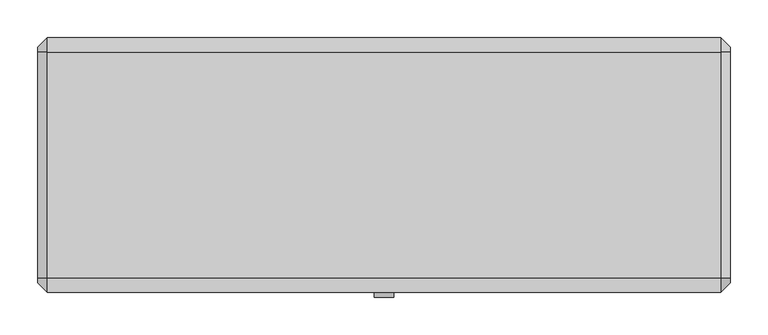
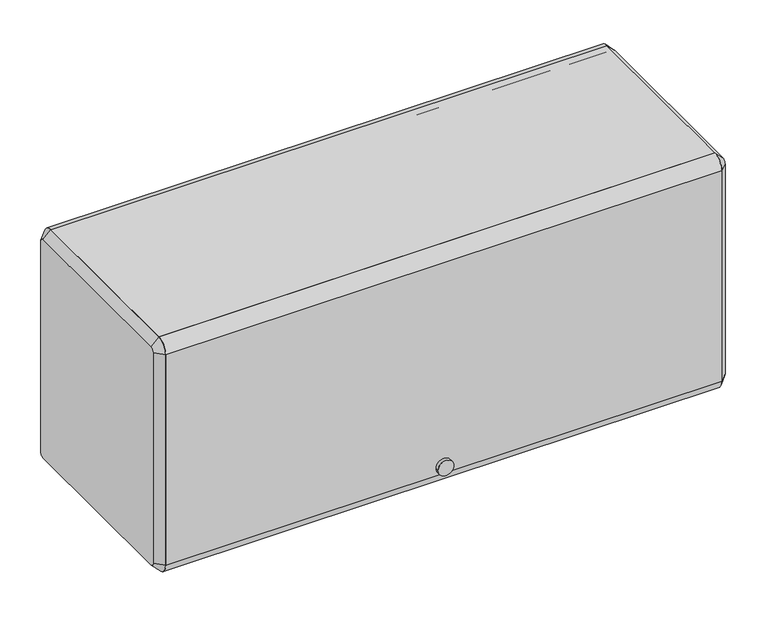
"""IFC4 building model written with IfcOpenShell, lengths in millimetres: furniture geometry."""

from ifc_helpers import new_model, si_unit, point, frame, frame_2d, origin, place, context, project, spatial, polyline, circle_curve, trimmed, segment, composite_curve, outline, extrude, source, transform, mapped, element, save
from ifc_brep_helpers import plane_surface, revolved_surface, advanced_brep


def furniture_54f79333(model_context):
    return source(origin(), model_context, "Body", "SolidModel", [
        extrude(outline(composite_curve([segment(polyline([(-136.525, 1689.1), (-136.525, 1701.8), (161.925, 1701.8)]), True, "CONTINUOUS"), segment(trimmed(circle_curve(frame_2d((161.925, 1682.75)), 19.05), [point((161.925, 1701.8))], [point((180.975, 1682.75))], False, "CARTESIAN"), True, "CONTINUOUS"), segment(polyline([(180.975, 1682.75), (168.275, 1682.75)]), True, "CONTINUOUS"), segment(trimmed(circle_curve(frame_2d((161.925, 1682.75)), 6.35), [point((168.275, 1682.75))], [point((161.925, 1689.1))], True, "CARTESIAN"), True, "CONTINUOUS"), segment(polyline([(161.925, 1689.1), (-136.525, 1689.1)]), True, "CONTINUOUS")], self_intersect=False)), frame((-444.5, 0.0, 0.0), z_axis=(1.0, 0.0, 0.0), x_axis=(0.0, 1.0, 0.0)), (0.0, 0.0, 1.0), 889.0),
        extrude(outline(composite_curve([segment(trimmed(circle_curve(frame_2d((-136.525, 1682.75)), 19.05), [point((-155.575, 1682.75))], [point((-136.525, 1701.8))], False, "CARTESIAN"), True, "CONTINUOUS"), segment(polyline([(-136.525, 1701.8), (-136.525, 1689.1)]), True, "CONTINUOUS"), segment(trimmed(circle_curve(frame_2d((-136.525, 1682.75)), 6.35), [point((-136.525, 1689.1))], [point((-142.875, 1682.75))], True, "CARTESIAN"), True, "CONTINUOUS"), segment(polyline([(-142.875, 1682.75), (-142.875, 1327.15)]), True, "CONTINUOUS"), segment(trimmed(circle_curve(frame_2d((-136.525, 1327.15)), 6.35), [point((-142.875, 1327.15))], [point((-136.525, 1320.8))], True, "CARTESIAN"), True, "CONTINUOUS"), segment(polyline([(-136.525, 1320.8), (-136.525, 1308.1)]), True, "CONTINUOUS"), segment(trimmed(circle_curve(frame_2d((-136.525, 1327.15)), 19.05), [point((-136.525, 1308.1))], [point((-155.575, 1327.15))], False, "CARTESIAN"), True, "CONTINUOUS"), segment(polyline([(-155.575, 1327.15), (-155.575, 1682.75)]), True, "CONTINUOUS")], self_intersect=False)), frame((-444.5, 0.0, 0.0), z_axis=(1.0, 0.0, 0.0), x_axis=(0.0, 1.0, 0.0)), (0.0, 0.0, 1.0), 889.0),
        extrude(outline(composite_curve([segment(trimmed(circle_curve(frame_2d((1339.8118906, 0.0201199)), 12.7253951), [point((1339.8118906, 12.745515))], [point((1339.8118906, -12.7052752))], False, "CARTESIAN"), True, "CONTINUOUS"), segment(trimmed(circle_curve(frame_2d((1339.8118906, 0.0201199)), 12.7253951), [point((1339.8118906, -12.7052752))], [point((1339.8118906, 12.745515))], False, "CARTESIAN"), True, "CONTINUOUS")], self_intersect=False)), frame((0.0, -161.925, 0.0), z_axis=(0.0, 1.0, 0.0), x_axis=(0.0, 0.0, 1.0)), (0.0, 0.0, 1.0), 6.35),
        extrude(outline(polyline([(-136.525, 1346.2), (161.925, 1346.2), (161.925, 1384.3), (174.625, 1384.3), (174.625, 1381.125), (165.1, 1381.125), (165.1, 1343.025), (-133.35, 1343.025), (-133.35, 1323.975), (-136.525, 1323.975), (-136.525, 1346.2)])), frame((-444.5, 0.0, 0.0), z_axis=(1.0, 0.0, 0.0), x_axis=(0.0, 1.0, 0.0)), (0.0, 0.0, 1.0), 889.0),
        advanced_brep(
        [(457.2, 161.925, 1689.1), (457.2, -136.525, 1689.1), (457.2, -142.875, 1682.75), (457.2, -142.875, 1327.15), (457.2, -136.525, 1320.8), (457.2, 161.925, 1320.8), (457.2, 168.275, 1327.15), (457.2, 168.275, 1682.75), (444.5, 161.925, 1701.8), (444.5, 180.975, 1682.75), (444.5, 180.975, 1327.15), (444.5, 161.925, 1308.1), (444.5, -136.525, 1308.1), (444.5, -155.575, 1327.15), (444.5, -155.575, 1682.75), (444.5, -136.525, 1701.8)],
        [
            (0, 1),
            (1, 2, circle_curve(frame((457.2, -136.525, 1682.75), z_axis=(1.0, 6.493472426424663e-12, -6.5867311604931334e-12), x_axis=(6.586694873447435e-12, 0.0, 1.0)), 6.35)),
            (2, 3),
            (3, 4, circle_curve(frame((457.2, -136.525, 1327.15), z_axis=(1.0, 3.3759661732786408e-12, 3.3892888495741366e-12), x_axis=(3.3760128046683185e-12, -1.0, 0.0)), 6.35)),
            (4, 5),
            (5, 6, circle_curve(frame((457.2, 161.925, 1327.15), z_axis=(1.0, 3.37863070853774e-12, -3.3892888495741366e-12), x_axis=(-3.3893585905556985e-12, 0.0, -1.0)), 6.35)),
            (6, 7),
            (7, 0, circle_curve(frame((457.2, 161.925, 1682.75), z_axis=(1.0, 6.4828142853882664e-12, 6.394884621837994e-12), x_axis=(-6.482754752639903e-12, 1.0, 0.0)), 6.35)),
            (8, 9, circle_curve(frame((444.5, 161.925, 1682.75), z_axis=(-1.0, -6.4828142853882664e-12, -6.394884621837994e-12), x_axis=(-6.482754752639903e-12, 1.0, 0.0)), 19.05)),
            (9, 10),
            (10, 11, circle_curve(frame((444.5, 161.925, 1327.15), z_axis=(-1.0, -3.37863070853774e-12, 3.3892888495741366e-12), x_axis=(-3.3893585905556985e-12, 0.0, -1.0)), 19.05)),
            (11, 12),
            (12, 13, circle_curve(frame((444.5, -136.525, 1327.15), z_axis=(-1.0, -3.3759661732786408e-12, -3.3892888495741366e-12), x_axis=(3.3760128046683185e-12, -1.0, 0.0)), 19.05)),
            (13, 14),
            (14, 15, circle_curve(frame((444.5, -136.525, 1682.75), z_axis=(-1.0, -6.493472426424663e-12, 6.5867311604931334e-12), x_axis=(6.586694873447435e-12, 0.0, 1.0)), 19.05)),
            (15, 8),
            (15, 1),
            (0, 8),
            (14, 2),
            (13, 3),
            (12, 4),
            (11, 5),
            (10, 6),
            (9, 7),
        ],
        [
            plane_surface(frame((457.2, 12.7, 1504.95), z_axis=(1.0, 0.0, 0.0), x_axis=(0.0, -1.0, 0.0))),
            plane_surface(frame((444.5, 12.7, 1504.95), z_axis=(-1.0, 0.0, 0.0), x_axis=(0.0, -1.0, 0.0))),
            plane_surface(frame((444.5, 12.7, 1701.8), z_axis=(0.7071067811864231, 0.0, 0.7071067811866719), x_axis=(0.0, -1.0, 0.0))),
            revolved_surface(polyline([(457.2000000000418, -136.525, 1689.099999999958), (444.5, -136.525, 1701.8)]), (463.55, -136.525, 1682.75), (-1.0, -6.493472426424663e-12, 6.5867311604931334e-12)),
            plane_surface(frame((444.5, -155.575, 1504.95), z_axis=(0.7071067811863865, -0.7071067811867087, 0.0), x_axis=(0.0, 0.0, -1.0))),
            revolved_surface(polyline([(457.2000000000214, -142.87499999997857, 1327.15), (444.4999999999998, -155.57500000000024, 1327.15)]), (463.55, -136.525, 1327.15), (-1.0, -3.3759661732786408e-12, -3.3892888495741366e-12)),
            plane_surface(frame((444.5, 12.7, 1308.1), z_axis=(0.7071067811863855, 0.0, -0.7071067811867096), x_axis=(0.0, 1.0, 0.0))),
            revolved_surface(polyline([(457.2, 161.925, 1320.8), (444.4999999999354, 161.925, 1308.0999999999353)]), (463.55, 161.925, 1327.15), (-1.0, -3.37863070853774e-12, 3.3892888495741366e-12)),
            plane_surface(frame((444.5, 180.975, 1504.95), z_axis=(0.7071067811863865, 0.7071067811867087, 0.0), x_axis=(0.0, 0.0, 1.0))),
            revolved_surface(polyline([(457.2, 168.27500000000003, 1682.75), (444.4999999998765, 180.9750000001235, 1682.75)]), (463.55, 161.925, 1682.75), (-1.0, -6.4828142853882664e-12, -6.394884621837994e-12)),
        ],
        [
            (0, [[1, 2, 3, 4, 5, 6, 7, 8]]),
            (1, [[9, 10, 11, 12, 13, 14, 15, 16]]),
            (2, [[-16, 17, -1, 18]]),
            (3, [[-15, 19, -2, -17]]),
            (4, [[-14, 20, -3, -19]]),
            (5, [[-13, 21, -4, -20]]),
            (6, [[-12, 22, -5, -21]]),
            (7, [[-11, 23, -6, -22]]),
            (8, [[-10, 24, -7, -23]]),
            (9, [[-9, -18, -8, -24]]),
        ],
    ),
        advanced_brep(
        [(-457.2, -136.525, 1689.1), (-457.2, 161.925, 1689.1), (-457.2, 168.275, 1682.75), (-457.2, 168.275, 1327.15), (-457.2, 161.925, 1320.8), (-457.2, -136.525, 1320.8), (-457.2, -142.875, 1327.15), (-457.2, -142.875, 1682.75), (-444.5, -136.525, 1701.8), (-444.5, -155.575, 1682.75), (-444.5, -155.575, 1327.15), (-444.5, -136.525, 1308.1), (-444.5, 161.925, 1308.1), (-444.5, 180.975, 1327.15), (-444.5, 180.975, 1682.75), (-444.5, 161.925, 1701.8)],
        [
            (0, 1),
            (1, 2, circle_curve(frame((-457.2, 161.925, 1682.75), z_axis=(-1.0, 3.3653080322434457e-12, 3.4532376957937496e-12), x_axis=(3.4532613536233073e-12, 0.0, 1.0)), 6.35)),
            (2, 3),
            (3, 4, circle_curve(frame((-457.2, 161.925, 1327.15), z_axis=(-1.0, 0.0, 0.0), x_axis=(0.0, 1.0, 0.0)), 6.35)),
            (4, 5),
            (5, 6, circle_curve(frame((-457.2, -136.525, 1327.15), z_axis=(-1.0, 0.0, 0.0), x_axis=(0.0, 0.0, -1.0)), 6.35)),
            (6, 7),
            (7, 0, circle_curve(frame((-457.2, -136.525, 1682.75), z_axis=(-1.0, 3.3812952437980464e-12, -3.304023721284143e-12), x_axis=(-3.381351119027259e-12, -1.0, 0.0)), 6.35)),
            (8, 9, circle_curve(frame((-444.5, -136.525, 1682.75), z_axis=(1.0, -3.3812952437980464e-12, 3.304023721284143e-12), x_axis=(-3.381351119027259e-12, -1.0, 0.0)), 19.05)),
            (9, 10),
            (10, 11, circle_curve(frame((-444.5, -136.525, 1327.15), z_axis=(1.0, 0.0, 0.0), x_axis=(0.0, 0.0, -1.0)), 19.05)),
            (11, 12),
            (12, 13, circle_curve(frame((-444.5, 161.925, 1327.15), z_axis=(1.0, 0.0, 0.0), x_axis=(0.0, 1.0, 0.0)), 19.05)),
            (13, 14),
            (14, 15, circle_curve(frame((-444.5, 161.925, 1682.75), z_axis=(1.0, -3.3653080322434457e-12, -3.4532376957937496e-12), x_axis=(3.4532613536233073e-12, 0.0, 1.0)), 19.05)),
            (15, 8),
            (15, 1),
            (0, 8),
            (14, 2),
            (13, 3),
            (12, 4),
            (11, 5),
            (10, 6),
            (9, 7),
        ],
        [
            plane_surface(frame((-457.2, 12.7, 1504.95), z_axis=(-1.0, 0.0, 0.0), x_axis=(0.0, -1.0, 0.0))),
            plane_surface(frame((-444.5, 12.7, 1504.95), z_axis=(1.0, 0.0, 0.0), x_axis=(0.0, -1.0, 0.0))),
            plane_surface(frame((-444.5, 12.7, 1701.8), z_axis=(-0.7071067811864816, 0.0, 0.7071067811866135), x_axis=(0.0, 1.0, 0.0))),
            revolved_surface(polyline([(-457.2, 161.925, 1689.1), (-444.49999999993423, 161.925, 1701.8000000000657)]), (-463.55, 161.925, 1682.75), (1.0, -3.3653080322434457e-12, -3.4532376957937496e-12)),
            plane_surface(frame((-444.5, 180.975, 1504.95), z_axis=(-0.7071067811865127, 0.7071067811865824, 0.0), x_axis=(0.0, 0.0, -1.0))),
            revolved_surface(polyline([(-457.2, 168.27500000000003, 1327.15), (-444.5, 180.975, 1327.15)]), (-463.55, 161.925, 1327.15), (1.0, 0.0, 0.0)),
            plane_surface(frame((-444.5, 12.7, 1308.1), z_axis=(-0.7071067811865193, 0.0, -0.7071067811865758), x_axis=(0.0, -1.0, 0.0))),
            revolved_surface(polyline([(-457.2, -136.525, 1320.8), (-444.5, -136.525, 1308.1)]), (-463.55, -136.525, 1327.15), (1.0, 0.0, 0.0)),
            plane_surface(frame((-444.5, -155.575, 1504.95), z_axis=(-0.7071067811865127, -0.7071067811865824, 0.0), x_axis=(0.0, 0.0, 1.0))),
            revolved_surface(polyline([(-457.2000000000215, -142.87499999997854, 1682.75), (-444.5, -155.575, 1682.75)]), (-463.55, -136.525, 1682.75), (1.0, -3.3812952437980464e-12, 3.304023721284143e-12)),
        ],
        [
            (0, [[1, 2, 3, 4, 5, 6, 7, 8]]),
            (1, [[9, 10, 11, 12, 13, 14, 15, 16]]),
            (2, [[-16, 17, -1, 18]]),
            (3, [[-15, 19, -2, -17]]),
            (4, [[-14, 20, -3, -19]]),
            (5, [[-13, 21, -4, -20]]),
            (6, [[-12, 22, -5, -21]]),
            (7, [[-11, 23, -6, -22]]),
            (8, [[-10, 24, -7, -23]]),
            (9, [[-9, -18, -8, -24]]),
        ],
    ),
    ])


if __name__ == "__main__":
    model = new_model("IFC4")
    model_context = context("Model", 3, world=origin())
    ifc_project = project(units=[si_unit("LENGTHUNIT", "METRE", prefix="MILLI")], contexts=[model_context])
    site = spatial("IfcSite", under=ifc_project)
    building = spatial("IfcBuilding", under=site)
    placement = place(None, origin())
    furniture_shape = furniture_54f79333(model_context)
    element("IfcFurniture", 1, ObjectType="HermanMiller_ActionOffice_A3352_B-StyleFlipperDoorUnit : 15 1/2\"H x 13\"D x 36\"W", at=placement, inside=building, context=model_context, shape_type="MappedRepresentation", body=[
        mapped(furniture_shape, transform((0.0, 0.0, 0.0), x_axis=(1.0, 0.0, 0.0), y_axis=(0.0, 1.0, 0.0), z_axis=(0.0, 0.0, 1.0))),
    ])
    save(model, "model.ifc")
